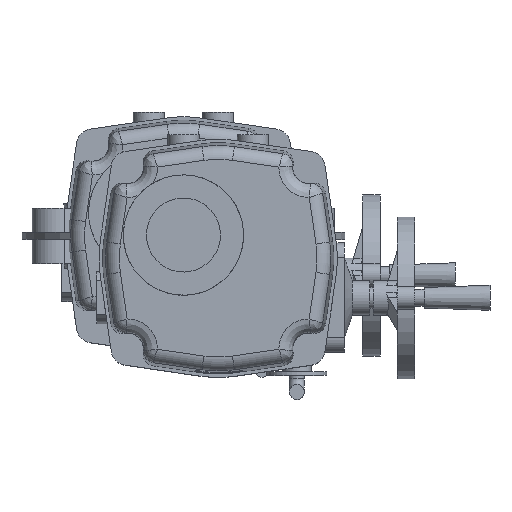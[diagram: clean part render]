
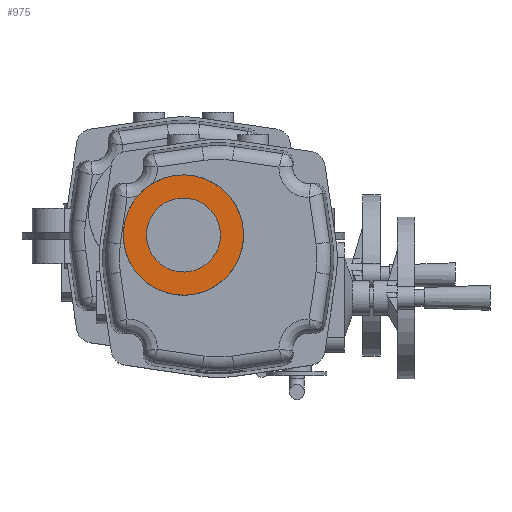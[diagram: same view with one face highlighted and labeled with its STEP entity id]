
A CAD part, top view. The second image highlights one B-rep face of the part: STEP entity #975.
In plain terms, the highlighted planar face has unit normal (0, 0, 1).
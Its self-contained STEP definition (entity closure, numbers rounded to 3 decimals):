
#975 = ADVANCED_FACE( '', ( #2383, #2384 ), #2385, .F. );
#2383 = FACE_BOUND( '', #5803, .T. );
#2384 = FACE_OUTER_BOUND( '', #5804, .T. );
#2385 = PLANE( '', #5805 );
#5803 = EDGE_LOOP( '', ( #11923 ) );
#5804 = EDGE_LOOP( '', ( #11924 ) );
#5805 = AXIS2_PLACEMENT_3D( '', #11925, #11926, #11927 );
#11923 = ORIENTED_EDGE( '', *, *, #16462, .T. );
#11924 = ORIENTED_EDGE( '', *, *, #16582, .F. );
#11925 = CARTESIAN_POINT( '', ( -30., 20., 132. ) );
#11926 = DIRECTION( '', ( 0., 0., -1. ) );
#11927 = DIRECTION( '', ( -1., 0., 0. ) );
#16462 = EDGE_CURVE( '', #19046, #19046, #19047, .T. );
#16582 = EDGE_CURVE( '', #19233, #19233, #19234, .T. );
#19046 = VERTEX_POINT( '', #25795 );
#19047 = CIRCLE( '', #25796, 32. );
#19233 = VERTEX_POINT( '', #26264 );
#19234 = CIRCLE( '', #26265, 52. );
#25795 = CARTESIAN_POINT( '', ( -34.615, -11.666, 132. ) );
#25796 = AXIS2_PLACEMENT_3D( '', #32826, #32827, #32828 );
#26264 = CARTESIAN_POINT( '', ( -37.499, -31.456, 132. ) );
#26265 = AXIS2_PLACEMENT_3D( '', #32969, #32970, #32971 );
#32826 = CARTESIAN_POINT( '', ( -30., 20., 132. ) );
#32827 = DIRECTION( '', ( 0., 0., -1. ) );
#32828 = DIRECTION( '', ( -0.144, -0.99, 0. ) );
#32969 = CARTESIAN_POINT( '', ( -30., 20., 132. ) );
#32970 = DIRECTION( '', ( 0., 0., -1. ) );
#32971 = DIRECTION( '', ( -0.144, -0.99, 0. ) );
